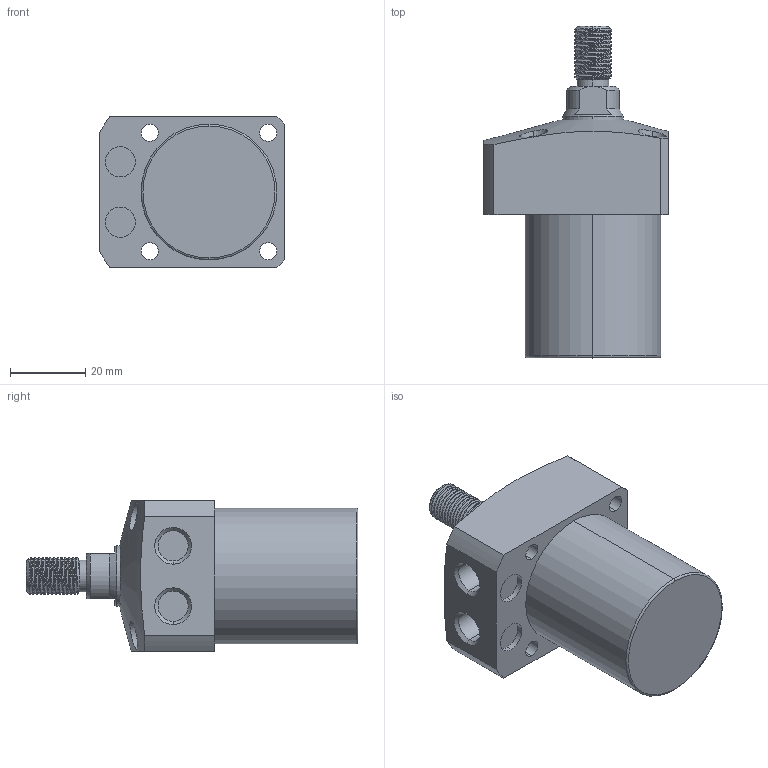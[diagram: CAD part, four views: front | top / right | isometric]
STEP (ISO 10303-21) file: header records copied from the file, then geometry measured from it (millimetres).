
FILE_DESCRIPTION (( 'STEP AP203' ), '1' );
FILE_NAME ('CLL-036CT-030.STEP', '2020-01-08T08:28:40', ( '' ), ( '' ), 'SwSTEP 2.0', 'SolidWorks 2015', '' );
FILE_SCHEMA (( 'CONFIG_CONTROL_DESIGN' ));
Length unit declared in the file: millimetre
Products named in the file (1): CLL-036CT-030
Bounding box: 49 x 88 x 40 mm (x, y, z)
Volume: 81573.4 mm3; surface area: 14965.8 mm2
Topology: 1 solids, 1 shells, 104 faces, 259 edges, 168 vertices
Faces by surface type: cylinder 61, plane 23, cone 16, torus 2, bspline 2
Entity records: 5047 total; most frequent: CARTESIAN_POINT 2628, ORIENTED_EDGE 518, DIRECTION 460, EDGE_CURVE 259, AXIS2_PLACEMENT_3D 185, VERTEX_POINT 168, EDGE_LOOP 123, FACE_OUTER_BOUND 104
